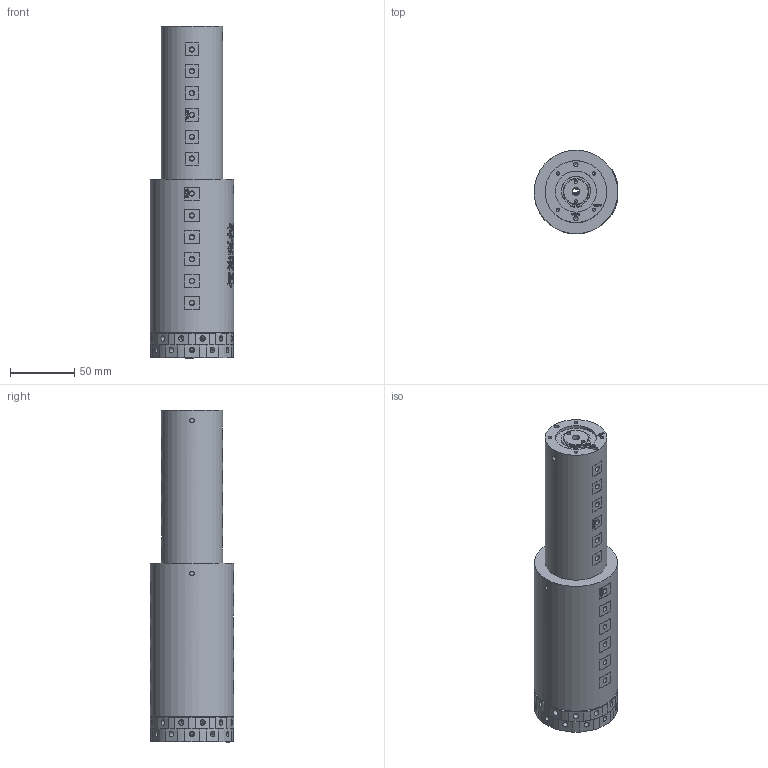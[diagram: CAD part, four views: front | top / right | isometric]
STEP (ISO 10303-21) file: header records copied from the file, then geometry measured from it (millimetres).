
FILE_DESCRIPTION(/* description */ (''),/* implementation_level */ '2;1');
FILE_NAME(/* name */ 'HQ24005.stp',/* time_stamp */ '2025-03-05T09:48:14+08:00',/* author */ (''),/* organization */ (''),/* preprocessor_version */ 'ST-DEVELOPER v16.7',/* originating_system */ 'SIEMENS PLM Software NX 12.0',/* authorisation */ '');
FILE_SCHEMA (('AUTOMOTIVE_DESIGN { 1 0 10303 214 3 1 1 1 }'));
Products named in the file (1): HX051BA0B399mlni
Bounding box: 65.11 x 65 x 258.4 mm (x, y, z)
Volume: 648844.2 mm3; surface area: 87077.9 mm2
Topology: 1 solids, 17 shells, 1704 faces, 4416 edges, 2961 vertices
Faces by surface type: plane 799, extrusion 544, cylinder 273, bspline 61, cone 15, torus 12
Full cylindrical faces by diameter (mm): 1.5 x2, 2.5 x6, 2.994 x6, 3 x36, 3.006 x6, 3.3 x24, 3.4 x35, 3.5 x24, 4.2 x49, 6 x1, 19 x1, 19.997 x1, 32.03 x1, 44 x1, 48 x1, 65 x1
Entity records: 60150 total; most frequent: CARTESIAN_POINT 24529, ORIENTED_EDGE 8026, DIRECTION 5021, EDGE_CURVE 4013, B_SPLINE_CURVE_WITH_KNOTS 2951, VERTEX_POINT 2813, EDGE_LOOP 2174, AXIS2_PLACEMENT_3D 1775
